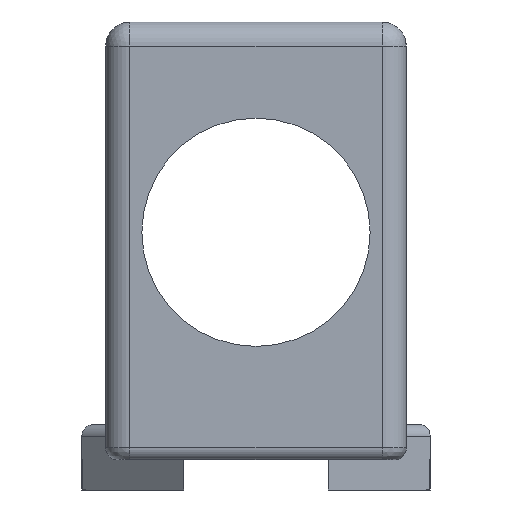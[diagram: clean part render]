
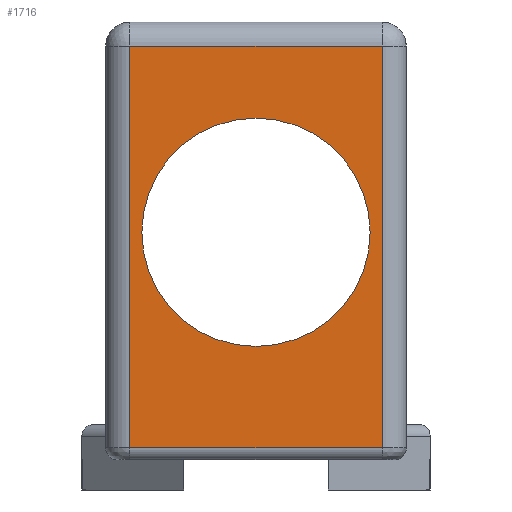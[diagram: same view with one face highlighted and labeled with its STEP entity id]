
A CAD part, front view. The second image highlights one B-rep face of the part: STEP entity #1716.
In plain terms, the highlighted planar face has unit normal (0, -1, 0).
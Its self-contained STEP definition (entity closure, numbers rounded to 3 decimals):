
#31=FACE_BOUND('',#533,.T.);
#41=PLANE('',#1833);
#93=LINE('',#2602,#237);
#101=LINE('',#2662,#245);
#102=LINE('',#2666,#246);
#103=LINE('',#2667,#247);
#237=VECTOR('',#2033,10.);
#245=VECTOR('',#2063,10.);
#246=VECTOR('',#2068,10.);
#247=VECTOR('',#2069,10.);
#429=FACE_OUTER_BOUND('',#532,.T.);
#532=EDGE_LOOP('',(#1215,#1216,#1217,#1218));
#533=EDGE_LOOP('',(#1219));
#650=CIRCLE('',#1834,9.5);
#752=VERTEX_POINT('',#2592);
#754=VERTEX_POINT('',#2598);
#766=VERTEX_POINT('',#2661);
#767=VERTEX_POINT('',#2665);
#768=VERTEX_POINT('',#2668);
#922=EDGE_CURVE('',#752,#754,#93,.T.);
#938=EDGE_CURVE('',#754,#766,#101,.T.);
#940=EDGE_CURVE('',#767,#752,#102,.T.);
#941=EDGE_CURVE('',#766,#767,#103,.T.);
#942=EDGE_CURVE('',#768,#768,#650,.T.);
#1215=ORIENTED_EDGE('',*,*,#922,.F.);
#1216=ORIENTED_EDGE('',*,*,#940,.F.);
#1217=ORIENTED_EDGE('',*,*,#941,.F.);
#1218=ORIENTED_EDGE('',*,*,#938,.F.);
#1219=ORIENTED_EDGE('',*,*,#942,.T.);
#1716=ADVANCED_FACE('',(#429,#31),#41,.T.);
#1833=AXIS2_PLACEMENT_3D('',#2664,#2066,#2067);
#1834=AXIS2_PLACEMENT_3D('',#2669,#2070,#2071);
#2033=DIRECTION('',(-1.,0.,0.));
#2063=DIRECTION('',(0.,0.,1.));
#2066=DIRECTION('center_axis',(0.,-1.,0.));
#2067=DIRECTION('ref_axis',(1.,0.,0.));
#2068=DIRECTION('',(0.,0.,-1.));
#2069=DIRECTION('',(1.,0.,0.));
#2070=DIRECTION('center_axis',(0.,1.,0.));
#2071=DIRECTION('ref_axis',(1.,0.,0.));
#2592=CARTESIAN_POINT('',(15.,-162.5,-6.448));
#2598=CARTESIAN_POINT('',(-6.,-162.5,-6.448));
#2602=CARTESIAN_POINT('',(-2.,-162.5,-6.448));
#2661=CARTESIAN_POINT('',(-6.,-162.5,27.));
#2662=CARTESIAN_POINT('',(-6.,-162.5,-1.));
#2664=CARTESIAN_POINT('Origin',(-8.,-162.5,-1.));
#2665=CARTESIAN_POINT('',(15.,-162.5,27.));
#2666=CARTESIAN_POINT('',(15.,-162.5,-3.));
#2667=CARTESIAN_POINT('',(-8.,-162.5,27.));
#2668=CARTESIAN_POINT('',(-5.,-162.5,11.5));
#2669=CARTESIAN_POINT('Origin',(4.5,-162.5,11.5));
